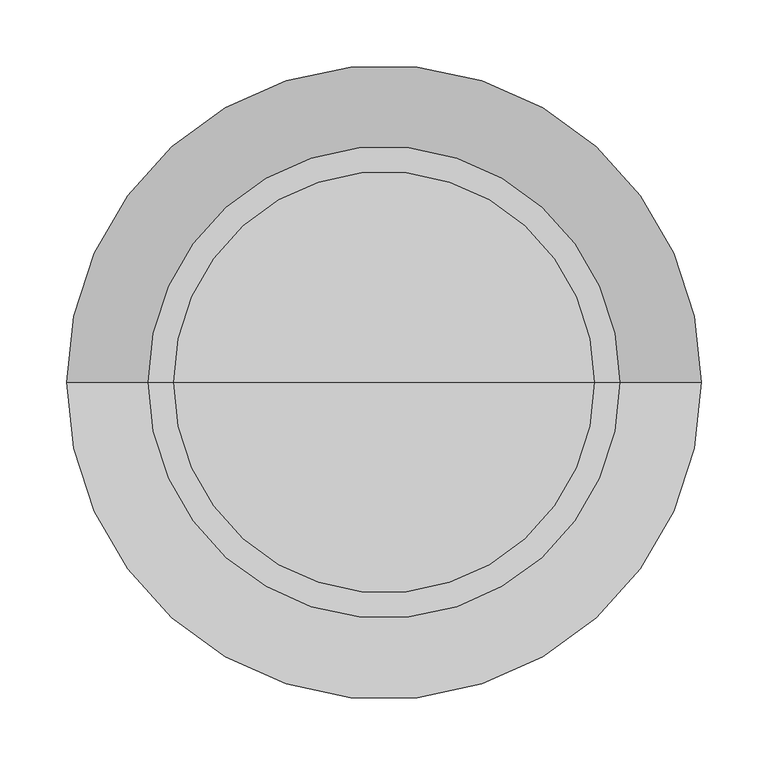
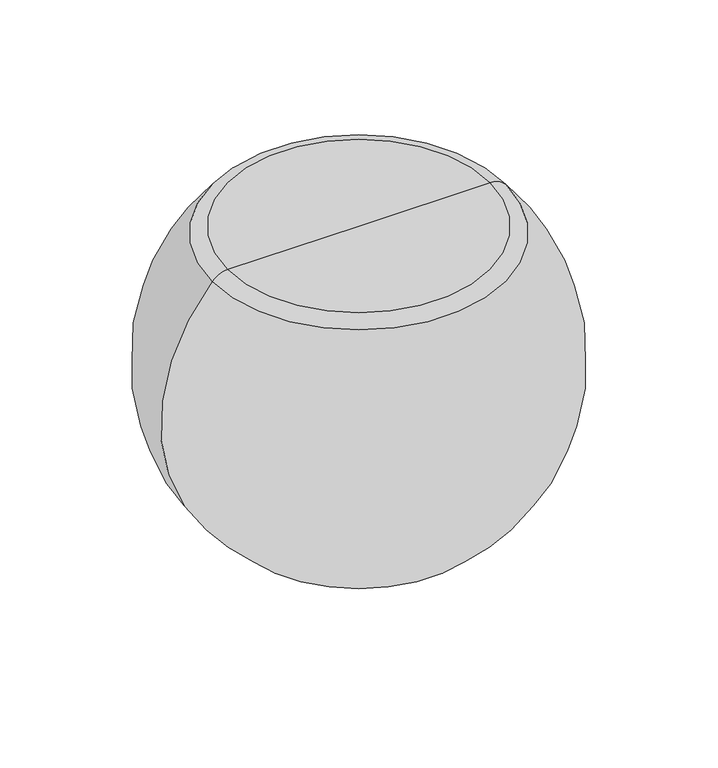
"""IFC4 building model written with IfcOpenShell, lengths in millimetres: furniture geometry, Haworth_Bong_Table : HCCE-BNGP."""

from ifc_helpers import new_model, si_unit, point, frame, origin, place, context, project, spatial, circle_curve, ellipse_curve, trimmed, source, transform, mapped, element, save
from ifc_brep_helpers import plane_surface, revolved_surface, advanced_brep


def furniture_dc67d0dc(model_context):
    return source(origin(), model_context, "Body", "AdvancedBrep", [
        advanced_brep(
        [(0.0, 0.0, 0.0), (-61.523216, 0.0, 0.0), (61.523216, 0.0, 0.0), (157.1485147, 0.0, 400.5443376), (-157.1485147, 0.0, 400.5443376), (0.0, 0.0, 400.5443376), (176.0567192, 0.0, 392.1042845), (-176.0567192, 0.0, 392.1042845)],
        [
            (0, 1),
            (1, 2, circle_curve(frame((0.0, 0.0, 0.0), z_axis=(0.0, 0.0, -1.0), x_axis=(-1.0, 0.0, 0.0)), 61.523216)),
            (2, 0),
            (2, 1, circle_curve(frame((0.0, 0.0, 0.0), z_axis=(0.0, 0.0, -1.0), x_axis=(-1.0, 0.0, 0.0)), 61.523216)),
            (3, 4, circle_curve(frame((0.0, 0.0, 400.5443376), z_axis=(0.0, 0.0, 1.0), x_axis=(-1.0, 0.0, 0.0)), 157.1485147)),
            (4, 5),
            (5, 3),
            (4, 3, circle_curve(frame((0.0, 0.0, 400.5443376), z_axis=(0.0, 0.0, 1.0), x_axis=(-1.0, 0.0, 0.0)), 157.1485147)),
            (6, 7, circle_curve(frame((0.0, 0.0, 392.1042845), z_axis=(0.0, 0.0, 1.0), x_axis=(-1.0, 0.0, 0.0)), 176.0567192)),
            (7, 4, circle_curve(frame((-157.1485147, 0.0, 375.1443376), z_axis=(0.0, 1.0, 0.0), x_axis=(1.0, 0.0, 0.0)), 25.4)),
            (3, 6, circle_curve(frame((157.1485147, 0.0, 375.1443376), z_axis=(0.0, 1.0, 0.0), x_axis=(-1.0, 0.0, 0.0)), 25.4)),
            (7, 6, circle_curve(frame((0.0, 0.0, 392.1042845), z_axis=(0.0, 0.0, 1.0), x_axis=(-1.0, 0.0, 0.0)), 176.0567192)),
            (1, 7, circle_curve(frame((2.8908486, 0.0, 231.5950596), z_axis=(0.0, 1.0, 0.0), x_axis=(1.0, 0.0, 0.0)), 240.3860298)),
            (6, 2, circle_curve(frame((-2.8908486, 0.0, 231.5950596), z_axis=(0.0, 1.0, 0.0), x_axis=(-1.0, 0.0, 0.0)), 240.3860298)),
        ],
        [
            plane_surface(frame((0.0, 0.0, 0.0), z_axis=(0.0, 0.0, -1.0), x_axis=(-1.0, 0.0, 0.0))),
            plane_surface(frame((0.0, 0.0, 400.5443376), z_axis=(0.0, 0.0, 1.0), x_axis=(-1.0, 0.0, 0.0))),
            revolved_surface(trimmed(ellipse_curve(frame((-157.1485147, 0.0, 375.1443376), z_axis=(0.0, -1.0, 0.0), x_axis=(1.0, 0.0, 0.0)), 25.4, 25.4), [point((-157.1485147, 0.0, 400.5443376))], [point((-176.0567192, 0.0, 392.1042845))], True, "CARTESIAN"), (0.0, 0.0, 2421.4288111), (0.0, 0.0, -1.0)),
            revolved_surface(trimmed(ellipse_curve(frame((2.8908486, 0.0, 231.5950596), z_axis=(0.0, -1.0, 0.0), x_axis=(1.0, 0.0, 0.0)), 240.3860298, 240.3860298), [point((-176.0567192, 0.0, 392.1042845))], [point((-61.523216, 0.0, 0.0))], True, "CARTESIAN"), (0.0, 0.0, 2421.4288111), (0.0, 0.0, -1.0)),
        ],
        [
            (0, [[1, 2, 3]]),
            (0, [[-3, 4, -1]]),
            (1, [[5, 6, 7]]),
            (1, [[8, -7, -6]]),
            (2, [[9, 10, -5, 11]]),
            (2, [[12, -11, -8, -10]]),
            (3, [[-2, 13, -9, 14]]),
            (3, [[-4, -14, -12, -13]]),
        ],
    ),
    ])


if __name__ == "__main__":
    model = new_model("IFC4")
    model_context = context("Model", 3, world=origin())
    ifc_project = project(units=[si_unit("LENGTHUNIT", "METRE", prefix="MILLI")], contexts=[model_context])
    site = spatial("IfcSite", under=ifc_project)
    building = spatial("IfcBuilding", under=site)
    placement = place(None, origin())
    furniture_shape = furniture_dc67d0dc(model_context)
    element("IfcFurniture", 1, ObjectType="Haworth_Bong_Table : HCCE-BNGP", at=placement, inside=building, context=model_context, shape_type="MappedRepresentation", body=[
        mapped(furniture_shape, transform((0.0, 0.0, 0.0), x_axis=(1.0, 0.0, 0.0), y_axis=(0.0, 1.0, 0.0), z_axis=(0.0, 0.0, 1.0))),
    ])
    save(model, "model.ifc")
